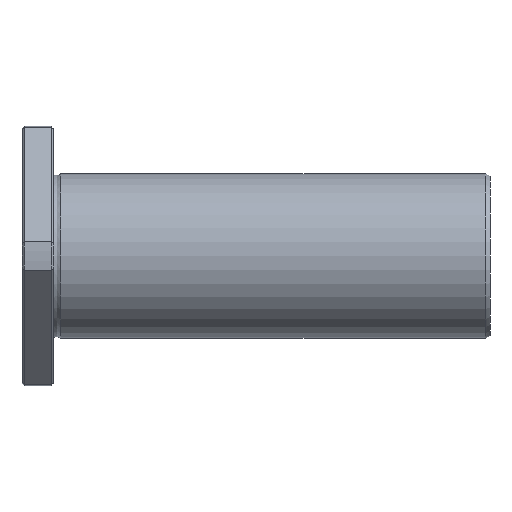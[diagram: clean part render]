
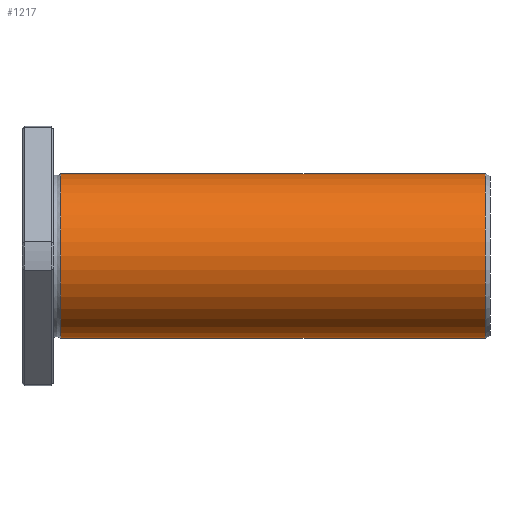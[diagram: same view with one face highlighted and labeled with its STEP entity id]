
A CAD part, front view. The second image highlights one B-rep face of the part: STEP entity #1217.
In plain terms, the highlighted cylindrical face has radius 26 mm (diameter 52 mm), a full revolution.
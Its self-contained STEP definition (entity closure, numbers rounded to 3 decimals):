
#1183=CARTESIAN_POINT('',(146.502,0.0,26.));
#1184=VERTEX_POINT('',#1183);
#1185=CARTESIAN_POINT('',(146.502,0.0,0.0));
#1186=DIRECTION('',(-1.0,0.0,0.0));
#1187=DIRECTION('',(0.0,0.0,1.0));
#1188=AXIS2_PLACEMENT_3D('',#1185,#1186,#1187);
#1189=CIRCLE('',#1188,26.);
#1190=EDGE_CURVE('',#1184,#1184,#1189,.T.);
#1198=CARTESIAN_POINT('',(79.362,0.0,0.0));
#1199=DIRECTION('',(-1.0,0.0,0.0));
#1200=DIRECTION('',(0.0,0.0,1.0));
#1201=AXIS2_PLACEMENT_3D('',#1198,#1199,#1200);
#1202=CYLINDRICAL_SURFACE('',#1201,26.);
#1203=CARTESIAN_POINT('',(12.223,0.0,26.0));
#1204=VERTEX_POINT('',#1203);
#1205=CARTESIAN_POINT('',(12.223,0.0,0.0));
#1206=DIRECTION('',(-1.0,0.0,0.0));
#1207=DIRECTION('',(0.0,0.0,1.0));
#1208=AXIS2_PLACEMENT_3D('',#1205,#1206,#1207);
#1209=CIRCLE('',#1208,26.0);
#1210=EDGE_CURVE('',#1204,#1204,#1209,.T.);
#1211=ORIENTED_EDGE('',*,*,#1210,.F.);
#1212=EDGE_LOOP('',(#1211));
#1213=FACE_OUTER_BOUND('',#1212,.T.);
#1214=ORIENTED_EDGE('',*,*,#1190,.T.);
#1215=EDGE_LOOP('',(#1214));
#1216=FACE_BOUND('',#1215,.T.);
#1217=ADVANCED_FACE('',(#1213,#1216),#1202,.T.);
